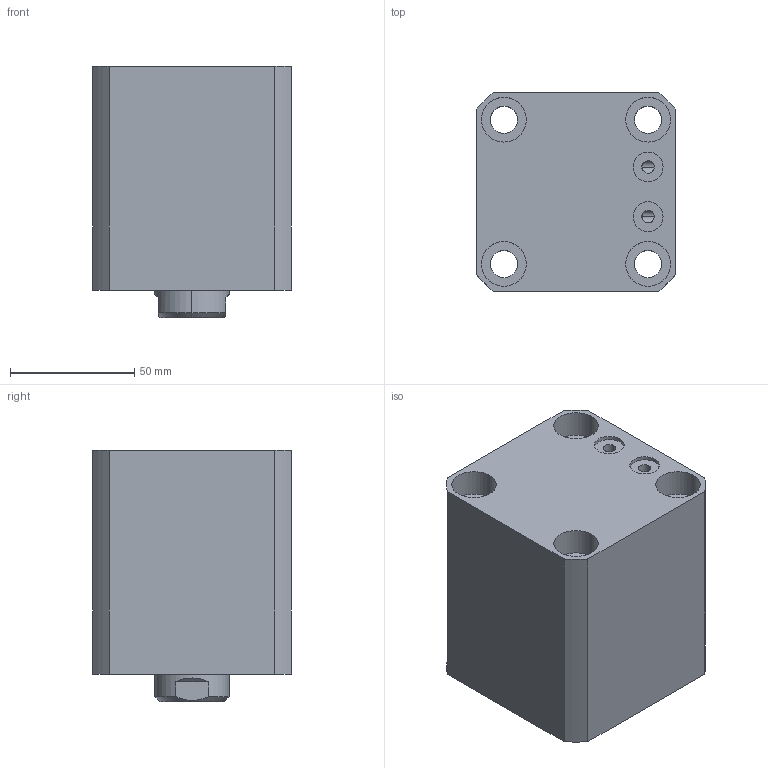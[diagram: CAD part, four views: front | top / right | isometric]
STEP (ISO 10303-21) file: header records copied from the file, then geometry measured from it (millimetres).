
FILE_DESCRIPTION (( 'STEP AP203' ), '1' );
FILE_NAME ('CHTB-SDMB50-30N.STEP', '2018-05-19T03:52:40', ( '' ), ( '' ), 'SwSTEP 2.0', 'SolidWorks 2015', '' );
FILE_SCHEMA (( 'CONFIG_CONTROL_DESIGN' ));
Length unit declared in the file: millimetre
Products named in the file (5): M6; CHTB-SDMB50-30N; 掛极SDMB50-30W; 活塞杆SDMB50-30N; CHTM-SDMA50QG
Assembly tree (5 placements, depth 2):
  CHTB-SDMB50-30N
    掛极SDMB50-30W
    活塞杆SDMB50-30N
    CHTM-SDMA50QG
    M6  x2
Bounding box: 80 x 80 x 101 mm (x, y, z)
Volume: 474715.3 mm3; surface area: 100608.9 mm2
Topology: 5 solids, 5 shells, 263 faces, 693 edges, 458 vertices
Faces by surface type: cylinder 135, plane 55, cone 31, bspline 26, torus 16
Entity records: 13963 total; most frequent: CARTESIAN_POINT 8102, ORIENTED_EDGE 1188, DIRECTION 1016, EDGE_CURVE 594, AXIS2_PLACEMENT_3D 416, VERTEX_POINT 397, EDGE_LOOP 269, ADVANCED_FACE 228
